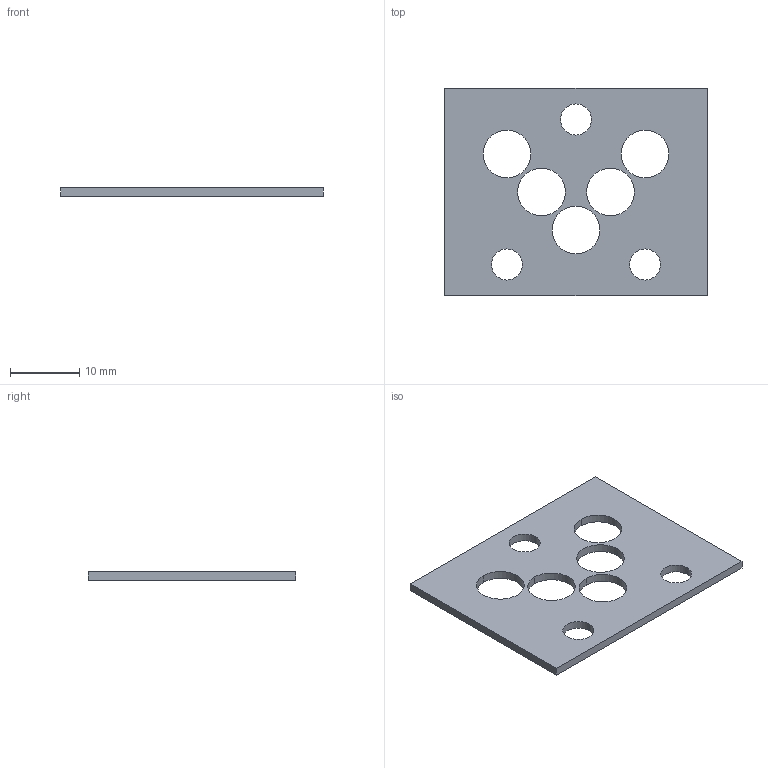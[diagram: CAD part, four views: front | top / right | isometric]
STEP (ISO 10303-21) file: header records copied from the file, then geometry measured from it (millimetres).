
FILE_DESCRIPTION (( 'STEP AP214' ), '1' );
FILE_NAME ('PDSA03.STEP', '2017-04-26T06:46:26', ( '' ), ( '' ), 'SwSTEP 2.0', 'SolidWorks 2016', '' );
FILE_SCHEMA (( 'AUTOMOTIVE_DESIGN' ));
Length unit declared in the file: millimetre
Products named in the file (1): PDSA03
Bounding box: 38 x 30 x 1.2 mm (x, y, z)
Volume: 1086.4 mm3; surface area: 2154.8 mm2
Topology: 1 solids, 1 shells, 22 faces, 60 edges, 40 vertices
Faces by surface type: cylinder 16, plane 6
Entity records: 782 total; most frequent: DIRECTION 138, CARTESIAN_POINT 123, ORIENTED_EDGE 120, EDGE_CURVE 60, AXIS2_PLACEMENT_3D 55, VERTEX_POINT 40, EDGE_LOOP 38, CIRCLE 32
